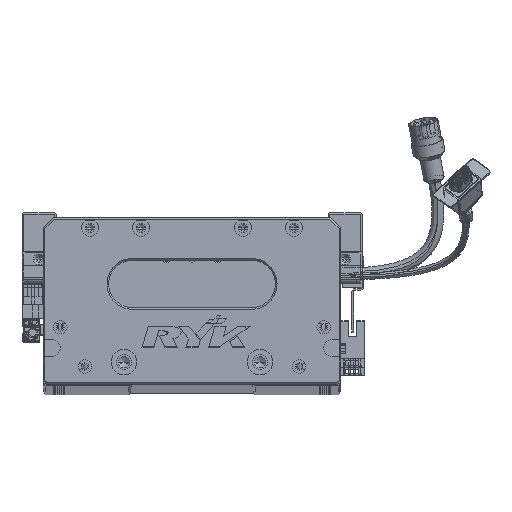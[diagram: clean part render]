
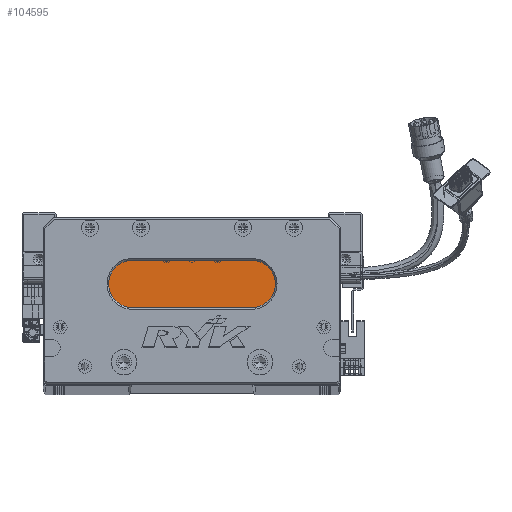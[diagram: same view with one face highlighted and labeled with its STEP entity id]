
A CAD part, top view. The second image highlights one B-rep face of the part: STEP entity #104595.
In plain terms, the highlighted planar face has unit normal (0, 0, 1) as drawn and (0, 0, -1) by its records, which use the part's own axes.
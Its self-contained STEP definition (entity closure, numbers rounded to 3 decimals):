
#2167 = CARTESIAN_POINT ( 'NONE',  ( 38.5, 59., 18. ) ) ;
#3560 = CARTESIAN_POINT ( 'NONE',  ( 52.5, 59., 18. ) ) ;
#11249 = DIRECTION ( 'NONE',  ( 0., 0., -1. ) ) ;
#13586 = DIRECTION ( 'NONE',  ( -1., 0., 0. ) ) ;
#15276 = CARTESIAN_POINT ( 'NONE',  ( 52.5, 45., 18. ) ) ;
#16198 = VERTEX_POINT ( 'NONE', #113908 ) ;
#17632 = PLANE ( 'NONE',  #81263 ) ;
#18523 = LINE ( 'NONE', #124877, #33093 ) ;
#19122 = DIRECTION ( 'NONE',  ( 0., 0., -1. ) ) ;
#24419 = ORIENTED_EDGE ( 'NONE', *, *, #110686, .T. ) ;
#27484 = AXIS2_PLACEMENT_3D ( 'NONE', #32062, #11249, #114621 ) ;
#29557 = DIRECTION ( 'NONE',  ( -1., 0., 0. ) ) ;
#32062 = CARTESIAN_POINT ( 'NONE',  ( 52.5, 59., 18. ) ) ;
#33093 = VECTOR ( 'NONE', #104008, 1000. ) ;
#36838 = ORIENTED_EDGE ( 'NONE', *, *, #133265, .T. ) ;
#37916 = LINE ( 'NONE', #50897, #107619 ) ;
#38950 = CARTESIAN_POINT ( 'NONE',  ( 122.5, 59., 18. ) ) ;
#44403 = CIRCLE ( 'NONE', #64356, 14. ) ;
#46111 = ORIENTED_EDGE ( 'NONE', *, *, #48239, .T. ) ;
#48043 = DIRECTION ( 'NONE',  ( 0., 0., -1. ) ) ;
#48239 = EDGE_CURVE ( 'NONE', #89423, #94668, #76096, .T. ) ;
#50897 = CARTESIAN_POINT ( 'NONE',  ( 122.5, 73., 18. ) ) ;
#51430 = CARTESIAN_POINT ( 'NONE',  ( 122.5, 73., 18. ) ) ;
#54299 = ORIENTED_EDGE ( 'NONE', *, *, #86293, .T. ) ;
#54891 = AXIS2_PLACEMENT_3D ( 'NONE', #3560, #116947, #13586 ) ;
#57068 = EDGE_LOOP ( 'NONE', ( #24419, #113837, #46111, #36838, #54299 ) ) ;
#64356 = AXIS2_PLACEMENT_3D ( 'NONE', #90269, #19122, #29557 ) ;
#69886 = DIRECTION ( 'NONE',  ( 1., 0., 0. ) ) ;
#76096 = CIRCLE ( 'NONE', #54891, 14. ) ;
#80251 = VERTEX_POINT ( 'NONE', #134076 ) ;
#81057 = VERTEX_POINT ( 'NONE', #51430 ) ;
#81263 = AXIS2_PLACEMENT_3D ( 'NONE', #38950, #48043, #90109 ) ;
#86293 = EDGE_CURVE ( 'NONE', #16198, #81057, #37916, .T. ) ;
#89423 = VERTEX_POINT ( 'NONE', #15276 ) ;
#90109 = DIRECTION ( 'NONE',  ( -1., 0., 0. ) ) ;
#90269 = CARTESIAN_POINT ( 'NONE',  ( 122.5, 59., 18. ) ) ;
#94668 = VERTEX_POINT ( 'NONE', #2167 ) ;
#104008 = DIRECTION ( 'NONE',  ( -1., 0., 0. ) ) ;
#104595 = ADVANCED_FACE ( 'NONE', ( #113194 ), #17632, .T. ) ;
#107619 = VECTOR ( 'NONE', #69886, 1000. ) ;
#110686 = EDGE_CURVE ( 'NONE', #81057, #80251, #44403, .T. ) ;
#111163 = CIRCLE ( 'NONE', #27484, 14. ) ;
#113194 = FACE_OUTER_BOUND ( 'NONE', #57068, .T. ) ;
#113837 = ORIENTED_EDGE ( 'NONE', *, *, #133855, .T. ) ;
#113908 = CARTESIAN_POINT ( 'NONE',  ( 52.5, 73., 18. ) ) ;
#114621 = DIRECTION ( 'NONE',  ( -1., 0., 0. ) ) ;
#116947 = DIRECTION ( 'NONE',  ( 0., 0., -1. ) ) ;
#124877 = CARTESIAN_POINT ( 'NONE',  ( 122.5, 45., 18. ) ) ;
#133265 = EDGE_CURVE ( 'NONE', #94668, #16198, #111163, .T. ) ;
#133855 = EDGE_CURVE ( 'NONE', #80251, #89423, #18523, .T. ) ;
#134076 = CARTESIAN_POINT ( 'NONE',  ( 122.5, 45., 18. ) ) ;
